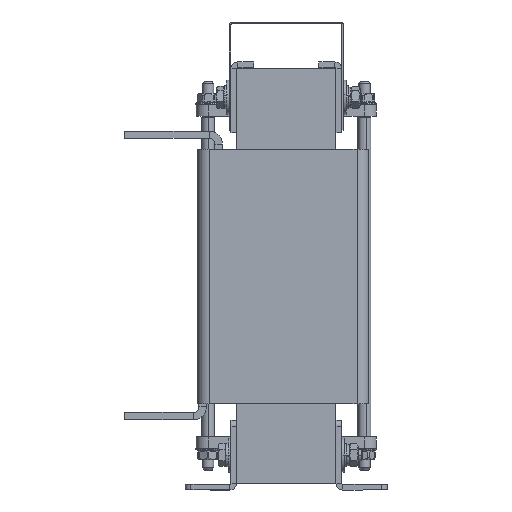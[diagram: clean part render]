
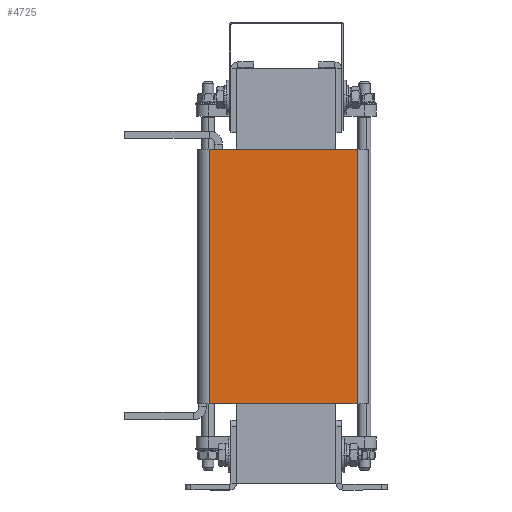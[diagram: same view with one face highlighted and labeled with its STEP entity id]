
A CAD part, left-side view. The second image highlights one B-rep face of the part: STEP entity #4725.
In plain terms, the highlighted planar face has unit normal (-1, 0, 0).
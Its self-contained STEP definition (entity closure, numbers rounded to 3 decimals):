
#443 = LINE ( 'NONE', #6974, #1134 ) ;
#1134 = VECTOR ( 'NONE', #5926, 1000. ) ;
#1211 = LINE ( 'NONE', #8672, #8476 ) ;
#1725 = CARTESIAN_POINT ( 'NONE',  ( -44.5, 67.5, 0. ) ) ;
#2128 = VECTOR ( 'NONE', #7497, 1000. ) ;
#2378 = LINE ( 'NONE', #8775, #2128 ) ;
#2633 = DIRECTION ( 'NONE',  ( 0., 0., 1. ) ) ;
#2848 = VERTEX_POINT ( 'NONE', #5662 ) ;
#2895 = VERTEX_POINT ( 'NONE', #1725 ) ;
#3062 = ORIENTED_EDGE ( 'NONE', *, *, #8452, .F. ) ;
#3345 = CARTESIAN_POINT ( 'NONE',  ( -44.5, 77.5, -223. ) ) ;
#3613 = FACE_OUTER_BOUND ( 'NONE', #8195, .T. ) ;
#4353 = AXIS2_PLACEMENT_3D ( 'NONE', #4471, #7961, #2633 ) ;
#4471 = CARTESIAN_POINT ( 'NONE',  ( -44.5, 77.5, -223. ) ) ;
#4725 = ADVANCED_FACE ( 'NONE', ( #3613 ), #7754, .T. ) ;
#5662 = CARTESIAN_POINT ( 'NONE',  ( -44.5, -62., 0. ) ) ;
#5684 = EDGE_CURVE ( 'NONE', #12839, #2848, #2378, .T. ) ;
#5926 = DIRECTION ( 'NONE',  ( 0., 0., -1. ) ) ;
#6543 = CARTESIAN_POINT ( 'NONE',  ( -44.5, 67.5, -223. ) ) ;
#6974 = CARTESIAN_POINT ( 'NONE',  ( -44.5, 67.5, -223. ) ) ;
#7287 = ORIENTED_EDGE ( 'NONE', *, *, #5684, .T. ) ;
#7497 = DIRECTION ( 'NONE',  ( 0., 0., 1. ) ) ;
#7607 = DIRECTION ( 'NONE',  ( 0., -1., 0. ) ) ;
#7754 = PLANE ( 'NONE',  #4353 ) ;
#7961 = DIRECTION ( 'NONE',  ( -1., 0., 0. ) ) ;
#8195 = EDGE_LOOP ( 'NONE', ( #3062, #10300, #11893, #7287 ) ) ;
#8452 = EDGE_CURVE ( 'NONE', #2895, #2848, #1211, .T. ) ;
#8476 = VECTOR ( 'NONE', #10703, 1000. ) ;
#8616 = LINE ( 'NONE', #3345, #11462 ) ;
#8672 = CARTESIAN_POINT ( 'NONE',  ( -44.5, 77.5, 0. ) ) ;
#8775 = CARTESIAN_POINT ( 'NONE',  ( -44.5, -62., -223. ) ) ;
#9524 = CARTESIAN_POINT ( 'NONE',  ( -44.5, -62., -223. ) ) ;
#10162 = VERTEX_POINT ( 'NONE', #6543 ) ;
#10300 = ORIENTED_EDGE ( 'NONE', *, *, #12653, .T. ) ;
#10703 = DIRECTION ( 'NONE',  ( 0., -1., 0. ) ) ;
#11462 = VECTOR ( 'NONE', #7607, 1000. ) ;
#11893 = ORIENTED_EDGE ( 'NONE', *, *, #13168, .T. ) ;
#12653 = EDGE_CURVE ( 'NONE', #2895, #10162, #443, .T. ) ;
#12839 = VERTEX_POINT ( 'NONE', #9524 ) ;
#13168 = EDGE_CURVE ( 'NONE', #10162, #12839, #8616, .T. ) ;
